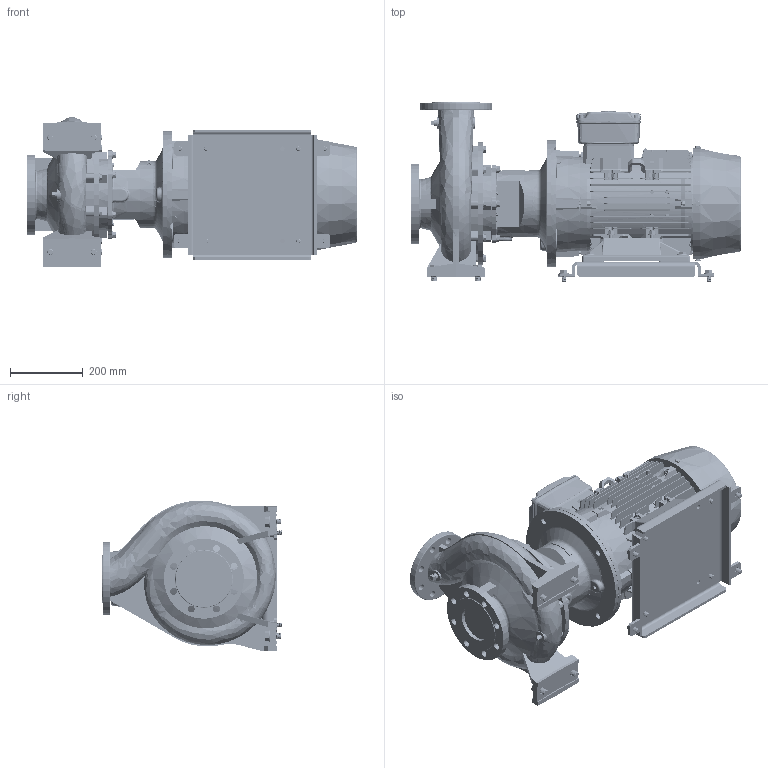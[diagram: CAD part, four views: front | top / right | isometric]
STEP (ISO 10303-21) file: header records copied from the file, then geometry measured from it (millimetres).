
FILE_DESCRIPTION (( 'STEP AP214' ), '1' );
FILE_NAME ('GSD4 80-250_11.0 & 15.0_(160ML)_W21.STEP', '2026-07-01T02:26:49', ( '' ), ( '' ), 'SwSTEP 2.0', 'SolidWorks 2024', '' );
FILE_SCHEMA (( 'AUTOMOTIVE_DESIGN' ));
Length unit declared in the file: millimetre
Products named in the file (12): Parametric bolt_SFT-A297B; Parametric bolt and washer_SFT-A297B; 80-250-160M_L_ﾃﾞﾌｫﾙﾄ; 160M_L_ALIE3_W21T_B35; Parametric bolt and washer_SFT-A353B; GSD4 80-250_11.0 & 15.0_(160ML)_W21; Parametric bolt_SFT-A303B; CGS11-5252; Parametric bolt_SFT-A353B; Parametric bolt and washer_SFT-A303B; Parametric Flat Washer_M16; Parametric Flat Washer_M12
Assembly tree (21 placements, depth 3):
  GSD4 80-250_11.0 & 15.0_(160ML)_W21
    80-250-160M_L_ﾃﾞﾌｫﾙﾄ
    CGS11-5252
    Parametric bolt and washer_SFT-A353B  x4
      Parametric bolt_SFT-A353B
      Parametric Flat Washer_M16
    Parametric bolt and washer_SFT-A297B  x4
      Parametric bolt_SFT-A297B
      Parametric Flat Washer_M12
    Parametric bolt and washer_SFT-A303B  x4
      Parametric bolt_SFT-A303B
      Parametric Flat Washer_M12
    160M_L_ALIE3_W21T_B35
Bounding box: 910.3 x 494.5 x 415.45 mm (x, y, z)
Volume: 53497112.5 mm3; surface area: 3419808.8 mm2
Topology: 63 solids, 69 shells, 6529 faces, 16855 edges, 10894 vertices
Faces by surface type: plane 3865, cylinder 1327, cone 616, bspline 447, torus 258, sphere 16
Entity records: 242026 total; most frequent: CARTESIAN_POINT 102085, ORIENTED_EDGE 30686, DIRECTION 25937, EDGE_CURVE 15343, VERTEX_POINT 9925, LINE 9689, VECTOR 9689, AXIS2_PLACEMENT_3D 8124
